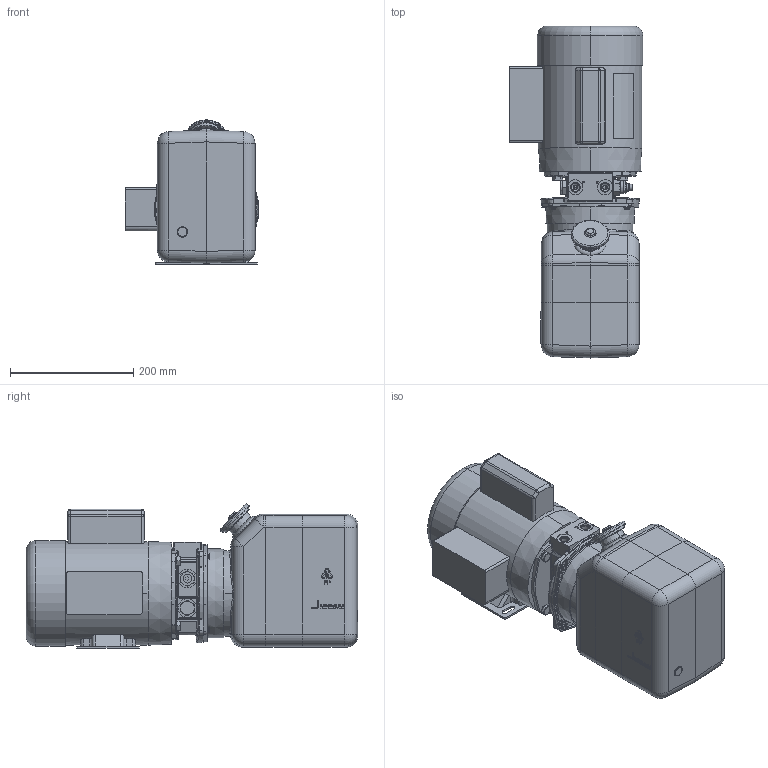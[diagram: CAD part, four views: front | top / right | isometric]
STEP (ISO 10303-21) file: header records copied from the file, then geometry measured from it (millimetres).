
FILE_DESCRIPTION((''),'2;1');
FILE_NAME('648010_SW0001','2012-10-10T',('gb10196'),('OILDYNE'),'PRO/ENGINEER BY PARAMETRIC TECHNOLOGY CORPORATION, 2005380','PRO/ENGINEER BY PARAMETRIC TECHNOLOGY CORPORATION, 2005380','');
FILE_SCHEMA(('CONFIG_CONTROL_DESIGN'));
Products named in the file (1): 648010_SW0001
Bounding box: 217.55 x 538.99 x 234.17 mm (x, y, z)
Surface area: 779479.2 mm2 (no closed solid volume)
Topology: 0 solids, 70 shells, 1638 faces, 4743 edges, 3135 vertices
Faces by surface type: plane 461, cylinder 431, bspline 251, cone 238, sphere 131, torus 126
Entity records: 66140 total; most frequent: CARTESIAN_POINT 25413, DIRECTION 8190, ORIENTED_EDGE 8173, EDGE_CURVE 4736, VERTEX_POINT 3135, AXIS2_PLACEMENT_3D 3130, VECTOR 1930, LINE 1930
